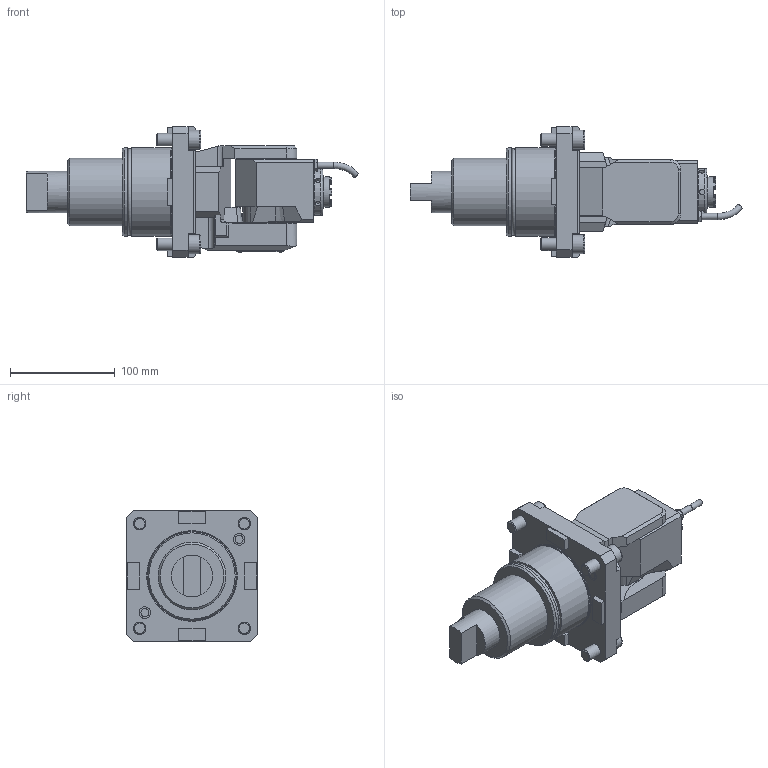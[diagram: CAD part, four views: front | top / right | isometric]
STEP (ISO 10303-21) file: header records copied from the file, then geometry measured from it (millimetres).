
FILE_DESCRIPTION(/* description */ (''),/* implementation_level */ '2;1');
FILE_NAME(/* name */ '198263-UNI',/* time_stamp */ '2022-07-14T10:07:16+02:00',/* author */ (''),/* organization */ (''),/* preprocessor_version */ 'ST-DEVELOPER v16.5',/* originating_system */ 'HiCAD 2017 2201.0 Build 268',/* authorisation */ '');
FILE_SCHEMA (('AUTOMOTIVE_DESIGN { 1 0 10303 214 1 1 1 1 }'));
Length unit declared in the file: millimetre
Products named in the file (2): Root; Teil
Assembly tree (1 placements, depth 2):
  Root
    Teil
Bounding box: 317.54 x 125 x 125 mm (x, y, z)
Volume: 1400964.3 mm3; surface area: 136459.5 mm2
Topology: 1 solids, 6 shells, 532 faces, 1407 edges, 923 vertices
Faces by surface type: plane 343, cylinder 137, cone 24, torus 24, sphere 4
Full cylindrical faces by diameter (mm): 2 x4, 2.2 x4, 3 x1, 4 x1, 5.1 x6, 6 x2, 7.65 x2, 10 x1, 11.01 x2, 12 x4, 16 x1, 18 x4, 19 x1, 21 x2, 22 x1, 23.4 x1, 29.5 x1, 30 x1, 32 x2, 33 x1, 39.5 x1, 40 x1, 44 x1, 45 x1, 65 x1, 80.3 x2, 84.5 x1, 84.9 x2
Entity records: 33516 total; most frequent: CARTESIAN_POINT 8321, DIRECTION 2563, PRESENTATION_STYLE_ASSIGNMENT 2543, COLOUR_RGB 2543, DRAUGHTING_PRE_DEFINED_CURVE_FONT 2542, CURVE_STYLE 2542, OVER_RIDING_STYLED_ITEM 2542, ORIENTED_EDGE 2542
